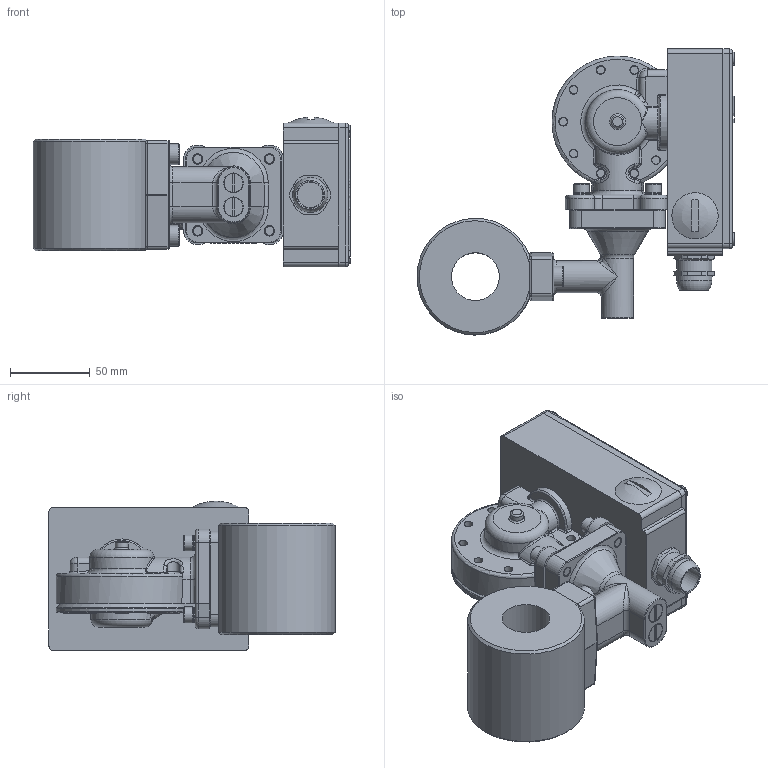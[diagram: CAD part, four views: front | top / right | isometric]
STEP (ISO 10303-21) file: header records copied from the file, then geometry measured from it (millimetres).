
FILE_DESCRIPTION(/* description */ ('Alibre Inc.'),/* implementation_level */ '2;1');
FILE_NAME(/* name */ 'export0',/* time_stamp */ '2012-10-15T13:29:51+02:00',/* author */ (''),/* organization */ (''),/* preprocessor_version */ 'ST-DEVELOPER v14',/* originating_system */ 'Alibre',/* authorisation */ '');
FILE_SCHEMA (('CONFIG_CONTROL_DESIGN'));
Length unit declared in the file: centimetre
Products named in the file (13): ID_1; ID_2; ID_3; ID_4; ID_5; ID_6; ID_7; ID_8
Bounding box: 199 x 179.05 x 93.66 mm (x, y, z)
Volume: 632755.7 mm3; surface area: 200393.9 mm2
Topology: 29 solids, 29 shells, 1094 faces, 2578 edges, 1625 vertices
Faces by surface type: plane 540, cylinder 251, bspline 168, torus 65, cone 65, sphere 5
Full cylindrical faces by diameter (mm): 5 x23, 5.5 x18, 6 x12, 6.038 x2, 6.5 x4, 7.5 x1, 8 x18, 8.3 x9, 8.5 x2, 8.7 x2, 9.6 x4, 10 x4, 11.75 x2, 11.85 x1, 12 x2, 13 x2, 14 x2, 16 x1, 17.966 x1, 22 x2, 22.5 x4, 30 x1, 31 x1, 32 x1, 47 x1, 56 x2
Entity records: 34395 total; most frequent: CARTESIAN_POINT 14007, ORIENTED_EDGE 3926, DIRECTION 3183, EDGE_CURVE 1963, VERTEX_POINT 1311, AXIS2_PLACEMENT_3D 1303, EDGE_LOOP 1144, FACE_BOUND 1144
